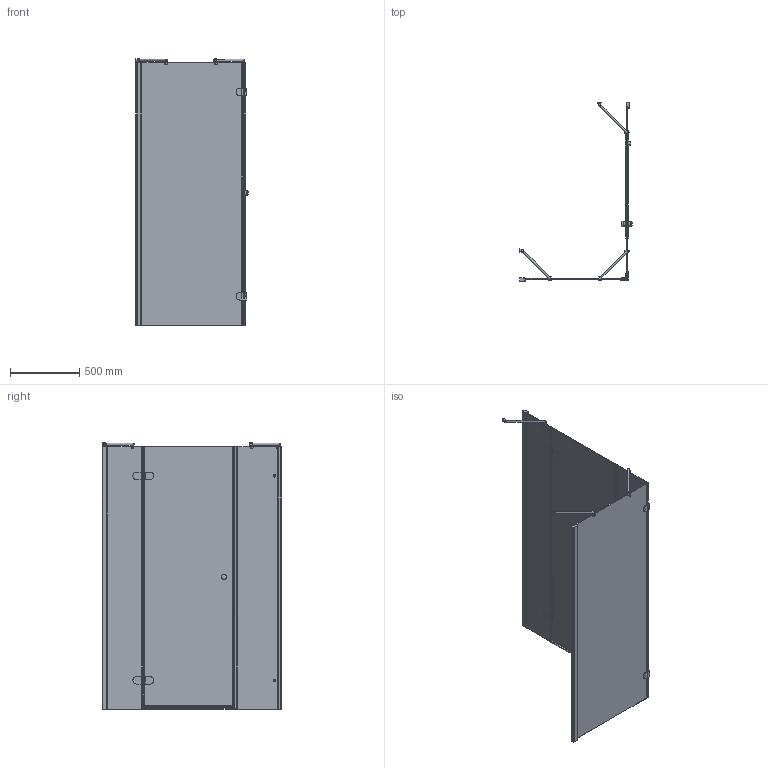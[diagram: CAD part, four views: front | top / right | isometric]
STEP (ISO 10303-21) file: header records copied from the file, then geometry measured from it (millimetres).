
FILE_DESCRIPTION(/* description */ (''),/* implementation_level */ '2;1');
FILE_NAME(/* name */ 'E:\Работа\Сергей\Душевые кабинки\! Работа\!!!!!!!!!!!!!!!!!!!\LUX RECTAN GK-104B1\LUX RECTAN GK-104B1 правая модель\LUX RECTAN GK-104B1 ПРАВАЯ-3D.stp',/* time_stamp */ '2018-06-25T19:03:15+03:00',/* author */ ('PC'),/* organization */ (''),/* preprocessor_version */ 'ST-DEVELOPER v15.2',/* originating_system */ 'Autodesk Inventor 2014',/* authorisation */ '');
FILE_SCHEMA (('CONFIG_CONTROL_DESIGN'));
Length unit declared in the file: millimetre
Products named in the file (1): LUX RECTAN GK-104B1 ПРАВАЯ-3
D
Bounding box: 817 x 1298.62 x 1931.5 mm (x, y, z)
Volume: 27309343.1 mm3; surface area: 8483329.1 mm2
Topology: 5 solids, 5 shells, 710 faces, 1816 edges, 1141 vertices
Faces by surface type: plane 475, cylinder 199, torus 14, sphere 12, bspline 6, cone 4
Full cylindrical faces by diameter (mm): 8 x4, 11 x4, 12 x4, 15 x3, 18 x4, 20 x6, 26 x2, 38 x4
Entity records: 22090 total; most frequent: CARTESIAN_POINT 4406, DIRECTION 3516, ORIENTED_EDGE 3450, EDGE_CURVE 1725, LINE 1218, VECTOR 1218, AXIS2_PLACEMENT_3D 1149, VERTEX_POINT 1101
